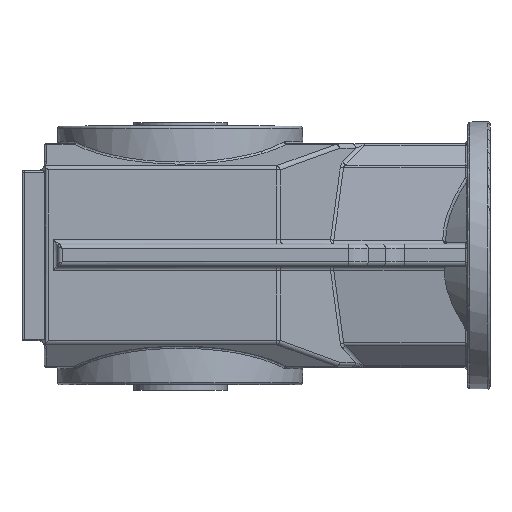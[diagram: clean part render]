
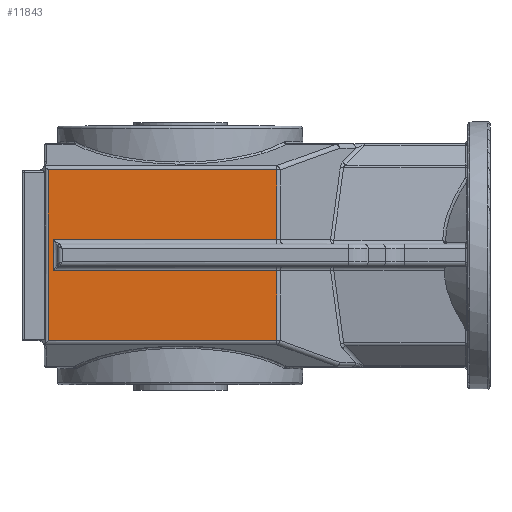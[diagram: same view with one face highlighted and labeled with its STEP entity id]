
A CAD part, top view. The second image highlights one B-rep face of the part: STEP entity #11843.
In plain terms, the highlighted planar face has unit normal (0, 0, 1).
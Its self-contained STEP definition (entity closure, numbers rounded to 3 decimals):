
#1387=CARTESIAN_POINT('',(-88.5,7.0,159.0));
#1388=VERTEX_POINT('',#1387);
#1585=CARTESIAN_POINT('',(-88.5,-7.0,159.0));
#1586=VERTEX_POINT('',#1585);
#1587=CARTESIAN_POINT('',(-88.5,7.0,159.0));
#1588=DIRECTION('',(0.0,-1.0,0.0));
#1589=VECTOR('',#1588,14.0);
#1590=LINE('',#1587,#1589);
#1591=EDGE_CURVE('',#1388,#1586,#1590,.T.);
#2223=CARTESIAN_POINT('',(-90.672,-38.286,159.0));
#2224=VERTEX_POINT('',#2223);
#2232=CARTESIAN_POINT('',(-90.672,38.286,159.0));
#2233=VERTEX_POINT('',#2232);
#2234=CARTESIAN_POINT('',(-90.672,-38.286,159.0));
#2235=DIRECTION('',(0.0,1.0,0.0));
#2236=VECTOR('',#2235,76.571);
#2237=LINE('',#2234,#2236);
#2238=EDGE_CURVE('',#2224,#2233,#2237,.T.);
#10509=CARTESIAN_POINT('',(11.851,7.0,159.0));
#10510=VERTEX_POINT('',#10509);
#10699=CARTESIAN_POINT('',(11.851,38.286,159.0));
#10700=VERTEX_POINT('',#10699);
#10725=CARTESIAN_POINT('',(-90.672,38.286,159.0));
#10726=DIRECTION('',(1.0,0.0,0.0));
#10727=VECTOR('',#10726,102.523);
#10728=LINE('',#10725,#10727);
#10729=EDGE_CURVE('',#2233,#10700,#10728,.T.);
#10766=CARTESIAN_POINT('',(11.851,38.286,159.0));
#10767=DIRECTION('',(0.0,-1.0,0.0));
#10768=VECTOR('',#10767,31.286);
#10769=LINE('',#10766,#10768);
#10770=EDGE_CURVE('',#10700,#10510,#10769,.T.);
#10817=CARTESIAN_POINT('',(11.851,-7.0,159.0));
#10818=VERTEX_POINT('',#10817);
#10986=CARTESIAN_POINT('',(-88.5,-7.0,159.0));
#10987=DIRECTION('',(1.0,0.0,0.0));
#10988=VECTOR('',#10987,100.351);
#10989=LINE('',#10986,#10988);
#10990=EDGE_CURVE('',#1586,#10818,#10989,.T.);
#11010=CARTESIAN_POINT('',(11.851,7.0,159.0));
#11011=DIRECTION('',(-1.0,0.0,0.0));
#11012=VECTOR('',#11011,100.351);
#11013=LINE('',#11010,#11012);
#11014=EDGE_CURVE('',#10510,#1388,#11013,.T.);
#11098=CARTESIAN_POINT('',(11.851,-38.286,159.0));
#11099=VERTEX_POINT('',#11098);
#11132=CARTESIAN_POINT('',(11.851,-38.286,159.0));
#11133=DIRECTION('',(-1.0,0.0,0.0));
#11134=VECTOR('',#11133,102.523);
#11135=LINE('',#11132,#11134);
#11136=EDGE_CURVE('',#11099,#2224,#11135,.T.);
#11155=CARTESIAN_POINT('',(11.851,-7.0,159.0));
#11156=DIRECTION('',(0.0,-1.0,0.0));
#11157=VECTOR('',#11156,31.286);
#11158=LINE('',#11155,#11157);
#11159=EDGE_CURVE('',#10818,#11099,#11158,.T.);
#11828=CARTESIAN_POINT('',(-91.24,3.112,159.0));
#11829=DIRECTION('',(0.0,0.0,1.0));
#11830=DIRECTION('',(1.0,0.0,0.0));
#11831=AXIS2_PLACEMENT_3D('',#11828,#11829,#11830);
#11832=PLANE('',#11831);
#11833=ORIENTED_EDGE('',*,*,#11136,.F.);
#11834=ORIENTED_EDGE('',*,*,#11159,.F.);
#11835=ORIENTED_EDGE('',*,*,#10990,.F.);
#11836=ORIENTED_EDGE('',*,*,#1591,.F.);
#11837=ORIENTED_EDGE('',*,*,#11014,.F.);
#11838=ORIENTED_EDGE('',*,*,#10770,.F.);
#11839=ORIENTED_EDGE('',*,*,#10729,.F.);
#11840=ORIENTED_EDGE('',*,*,#2238,.F.);
#11841=EDGE_LOOP('',(#11833,#11834,#11835,#11836,#11837,#11838,#11839,#11840));
#11842=FACE_OUTER_BOUND('',#11841,.T.);
#11843=ADVANCED_FACE('',(#11842),#11832,.T.);
